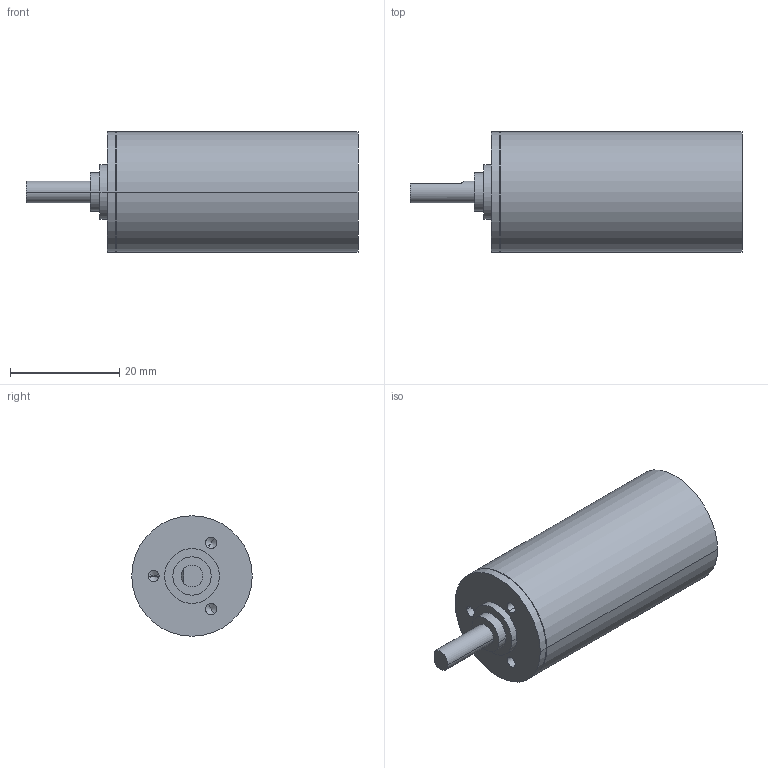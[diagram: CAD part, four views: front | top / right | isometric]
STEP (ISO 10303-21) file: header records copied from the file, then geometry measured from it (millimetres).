
FILE_DESCRIPTION((''),'2;1');
FILE_NAME('3562247','2016-10-04T',('mmagvisi'),(''),'CREO PARAMETRIC BY PTC INC, 2016050','CREO PARAMETRIC BY PTC INC, 2016050','');
FILE_SCHEMA(('CONFIG_CONTROL_DESIGN'));
Length unit declared in the file: millimetre
Products named in the file (1): 3562247
Bounding box: 60.65 x 22 x 22 mm (x, y, z)
Volume: 17662.2 mm3; surface area: 4272.3 mm2
Topology: 1 solids, 1 shells, 33 faces, 72 edges, 41 vertices
Faces by surface type: cylinder 16, cone 10, plane 7
Entity records: 1178 total; most frequent: DIRECTION 164, CARTESIAN_POINT 147, ORIENTED_EDGE 132, AXIS2_PLACEMENT_3D 67, PRESENTATION_STYLE_ASSIGNMENT 67, STYLED_ITEM 67, CURVE_STYLE 66, EDGE_CURVE 66
